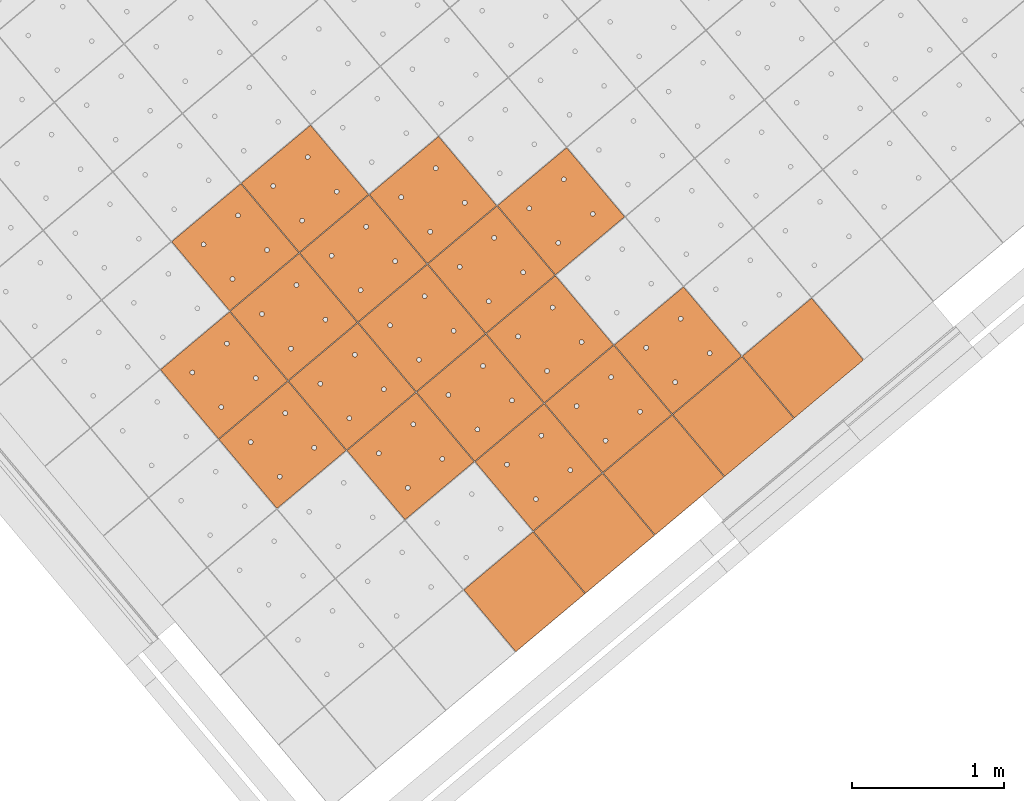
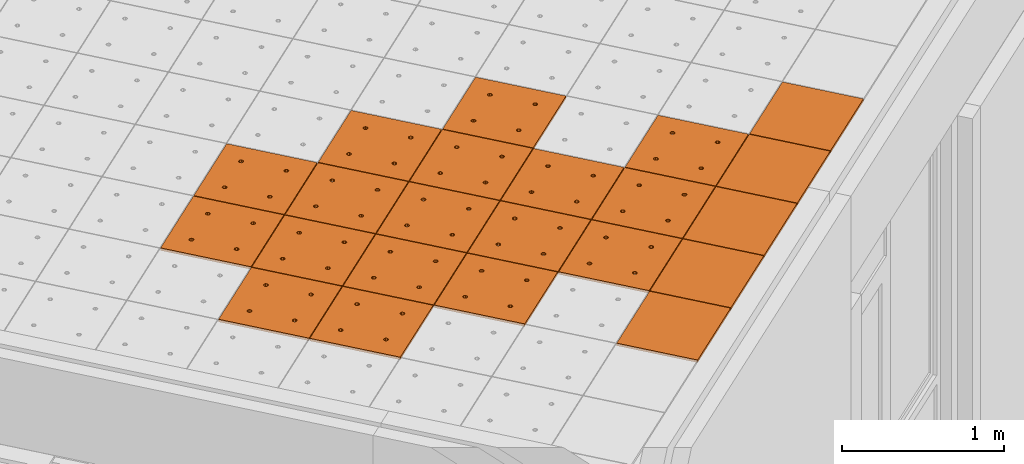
# One storey, part 126 of 338: 22 proxies, 1 element without a shape of its own.
"""IFC2X3 building model written with IfcOpenShell, lengths in millimetres."""

from ifc_helpers import new_model, entity, si_unit, converted_unit, derived_unit, money_unit, direction, frame, origin_with_axes, place, context, subcontext, project, spatial, faceted_brep, source, transform, mapped, material, type_object, type_shapes, element, aggregate, save


model = new_model("IFC2X3")

# Units and contexts
model_context = context("Model", 3, precision=0.01, world=origin_with_axes(), true_north=direction((0.0, 1.0)))
plan_context = context("Plan", 3, precision=0.01, world=origin_with_axes(), true_north=direction((0.0, 1.0)))
body_context = subcontext(model_context, "Body", "Model", "MODEL_VIEW")
ifc_project = project(units=[si_unit("LENGTHUNIT", "METRE", prefix="MILLI"), si_unit("AREAUNIT", "SQUARE_METRE"), si_unit("VOLUMEUNIT", "CUBIC_METRE"), converted_unit("PLANEANGLEUNIT", "DEGREE", entity("IfcPlaneAngleMeasure", 0.0174532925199), si_unit("PLANEANGLEUNIT", "RADIAN"), dimensions=[0, 0, 0, 0, 0, 0, 0]), money_unit("EUR"), converted_unit("TIMEUNIT", "Year", entity("IfcTimeMeasure", 31556926.0), si_unit("TIMEUNIT", "SECOND"), dimensions=[0, 0, 1, 0, 0, 0, 0]), si_unit("MASSUNIT", "GRAM", prefix="KILO"), si_unit("THERMODYNAMICTEMPERATUREUNIT", "DEGREE_CELSIUS"), si_unit("LUMINOUSINTENSITYUNIT", "LUMEN"), si_unit("ENERGYUNIT", "JOULE", prefix="MEGA"), derived_unit("THERMALCONDUCTANCEUNIT", [(si_unit("POWERUNIT", "WATT"), 1), (si_unit("LENGTHUNIT", "METRE"), -1), (si_unit("THERMODYNAMICTEMPERATUREUNIT", "KELVIN"), -1)]), derived_unit("SPECIFICHEATCAPACITYUNIT", [(si_unit("ENERGYUNIT", "JOULE"), 1), (si_unit("MASSUNIT", "GRAM", prefix="KILO"), -1), (si_unit("THERMODYNAMICTEMPERATUREUNIT", "KELVIN"), -1)]), derived_unit("MASSDENSITYUNIT", [(si_unit("MASSUNIT", "GRAM", prefix="KILO"), 1), (si_unit("VOLUMEUNIT", "CUBIC_METRE"), -1)])], contexts=[model_context, plan_context])

# Site, building, storey
site_placement = place(None, origin_with_axes())
site = spatial("IfcSite", under=ifc_project, at=site_placement, Name="Fortuinstraat Woensdrecht", CompositionType="ELEMENT")
building_placement = place(site_placement, origin_with_axes())
building = spatial("IfcBuilding", under=site, at=building_placement, Name="IKC Fortuna", CompositionType="ELEMENT")
storey_placement = place(building_placement, origin_with_axes())
storey = spatial("IfcBuildingStorey", under=building, at=storey_placement, Name="00 begane grond", CompositionType="ELEMENT", Elevation=0.0)

# Covering, proxies
covering_type = type_object("IfcCoveringType", Name="Curtain Wall Type", PredefinedType="CEILING")
covering_placement = place(storey_placement, frame((15150.6418133, -6622.13986243, 4660.0), z_axis=(0.0, 0.0, 1.0), x_axis=(1.0, 0.0, 0.0)))
covering = element("IfcCovering", 1, at=covering_placement, inside=storey, type_object=covering_type, Name="45_Plafondafwerking_P01", PredefinedType="CEILING")
ifc_material = material(Name="Gipsplaat")
building_element_proxy_type_1 = type_object("IfcBuildingElementProxyType", Name="Main Panel 600 x 600 x 20", PredefinedType="NOTDEFINED")
shared_shape_1 = source(origin_with_axes(), body_context, "Body", "Brep", [
    faceted_brep([(2.49999999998, 2.49999999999, -10.0), (300.0, 2.49999999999, -10.0), (300.0, 2.49999999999, 10.0), (2.49999999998, 2.49999999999, 10.0), (2.49999999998, 300.0, -10.0), (2.49999999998, 597.5, -10.0), (300.0, 597.5, -10.0), (597.5, 597.5, -10.0), (597.5, 300.0, -10.0), (597.5, 2.49999999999, -10.0), (166.25, 450.06232995, -10.0), (165.79423259, 452.64711538, -10.0), (164.896546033, 455.11348892, -10.0), (163.58421608, 457.38651108, -10.0), (161.897117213, 459.39711721, -10.0), (159.886511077, 461.08421608, -10.0), (157.613488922, 462.39654603, -10.0), (155.147115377, 463.29423259, -10.0), (152.562329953, 463.75, -10.0), (149.937670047, 463.75, -10.0), (147.352884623, 463.29423259, -10.0), (144.886511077, 462.39654603, -10.0), (142.613488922, 461.08421608, -10.0), (140.602882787, 459.39711721, -10.0), (138.91578392, 457.38651108, -10.0), (137.603453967, 455.11348892, -10.0), (136.705767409, 452.64711538, -10.0), (136.25, 450.06232995, -10.0), (136.25, 448.75, -10.0), (136.25, 447.43767005, -10.0), (136.705767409, 444.85288462, -10.0), (137.603453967, 442.38651108, -10.0), (138.91578392, 440.11348892, -10.0), (140.602882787, 438.10288279, -10.0), (142.613488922, 436.41578392, -10.0), (144.886511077, 435.10345397, -10.0), (147.352884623, 434.20576741, -10.0), (149.937670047, 433.75, -10.0), (152.562329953, 433.75, -10.0), (155.147115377, 434.20576741, -10.0), (157.613488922, 435.10345397, -10.0), (159.886511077, 436.41578392, -10.0), (161.897117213, 438.10288279, -10.0), (163.58421608, 440.11348892, -10.0), (164.896546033, 442.38651108, -10.0), (165.79423259, 444.85288462, -10.0), (166.25, 447.43767005, -10.0), (463.75, 450.06232995, -10.0), (463.29423259, 452.64711538, -10.0), (462.396546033, 455.11348892, -10.0), (461.08421608, 457.38651108, -10.0), (459.397117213, 459.39711721, -10.0), (457.386511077, 461.08421608, -10.0), (455.113488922, 462.39654603, -10.0), (452.647115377, 463.29423259, -10.0), (450.062329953, 463.75, -10.0), (447.437670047, 463.75, -10.0), (444.852884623, 463.29423259, -10.0), (442.386511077, 462.39654603, -10.0), (440.113488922, 461.08421608, -10.0), (438.102882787, 459.39711721, -10.0), (436.41578392, 457.38651108, -10.0), (435.103453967, 455.11348892, -10.0), (434.205767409, 452.64711538, -10.0), (433.75, 450.06232995, -10.0), (433.75, 448.75, -10.0), (433.75, 447.43767005, -10.0), (434.205767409, 444.85288462, -10.0), (435.103453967, 442.38651108, -10.0), (436.41578392, 440.11348892, -10.0), (438.102882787, 438.10288279, -10.0), (440.113488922, 436.41578392, -10.0), (442.386511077, 435.10345397, -10.0), (444.852884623, 434.20576741, -10.0), (447.437670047, 433.75, -10.0), (450.062329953, 433.75, -10.0), (452.647115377, 434.20576741, -10.0), (455.113488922, 435.10345397, -10.0), (457.386511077, 436.41578392, -10.0), (459.397117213, 438.10288279, -10.0), (461.08421608, 440.11348892, -10.0), (462.396546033, 442.38651108, -10.0), (463.29423259, 444.85288462, -10.0), (463.75, 447.43767005, -10.0), (463.75, 152.56232995, -10.0), (463.29423259, 155.14711538, -10.0), (462.396546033, 157.61348892, -10.0), (461.08421608, 159.88651108, -10.0), (459.397117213, 161.89711721, -10.0), (457.386511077, 163.58421608, -10.0), (455.113488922, 164.89654603, -10.0), (452.647115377, 165.79423259, -10.0), (450.062329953, 166.25, -10.0), (447.437670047, 166.25, -10.0), (444.852884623, 165.79423259, -10.0), (442.386511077, 164.89654603, -10.0), (440.113488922, 163.58421608, -10.0), (438.102882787, 161.89711721, -10.0), (436.41578392, 159.88651108, -10.0), (435.103453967, 157.61348892, -10.0), (434.205767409, 155.14711538, -10.0), (433.75, 152.56232995, -10.0), (433.75, 151.25, -10.0), (433.75, 149.93767005, -10.0), (434.205767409, 147.35288462, -10.0), (435.103453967, 144.88651108, -10.0), (436.41578392, 142.61348892, -10.0), (438.102882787, 140.60288279, -10.0), (440.113488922, 138.91578392, -10.0), (442.386511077, 137.60345397, -10.0), (444.852884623, 136.70576741, -10.0), (447.437670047, 136.25, -10.0), (450.062329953, 136.25, -10.0), (452.647115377, 136.70576741, -10.0), (455.113488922, 137.60345397, -10.0), (457.386511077, 138.91578392, -10.0), (459.397117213, 140.60288279, -10.0), (461.08421608, 142.61348892, -10.0), (462.396546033, 144.88651108, -10.0), (463.29423259, 147.35288462, -10.0), (463.75, 149.93767005, -10.0), (166.25, 152.56232995, -10.0), (165.79423259, 155.14711538, -10.0), (164.896546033, 157.61348892, -10.0), (163.58421608, 159.88651108, -10.0), (161.897117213, 161.89711721, -10.0), (159.886511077, 163.58421608, -10.0), (157.613488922, 164.89654603, -10.0), (155.147115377, 165.79423259, -10.0), (152.562329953, 166.25, -10.0), (149.937670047, 166.25, -10.0), (147.352884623, 165.79423259, -10.0), (144.886511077, 164.89654603, -10.0), (142.613488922, 163.58421608, -10.0), (140.602882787, 161.89711721, -10.0), (138.91578392, 159.88651108, -10.0), (137.603453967, 157.61348892, -10.0), (136.705767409, 155.14711538, -10.0), (136.25, 152.56232995, -10.0), (136.25, 151.25, -10.0), (136.25, 149.93767005, -10.0), (136.705767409, 147.35288462, -10.0), (137.603453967, 144.88651108, -10.0), (138.91578392, 142.61348892, -10.0), (140.602882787, 140.60288279, -10.0), (142.613488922, 138.91578392, -10.0), (144.886511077, 137.60345397, -10.0), (147.352884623, 136.70576741, -10.0), (149.937670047, 136.25, -10.0), (152.562329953, 136.25, -10.0), (155.147115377, 136.70576741, -10.0), (157.613488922, 137.60345397, -10.0), (159.886511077, 138.91578392, -10.0), (161.897117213, 140.60288279, -10.0), (163.58421608, 142.61348892, -10.0), (164.896546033, 144.88651108, -10.0), (165.79423259, 147.35288462, -10.0), (166.25, 149.93767005, -10.0), (597.5, 2.49999999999, 10.0), (597.5, 300.0, 10.0), (597.5, 597.5, 10.0), (300.0, 597.5, 10.0), (2.49999999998, 597.5, 10.0), (2.49999999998, 300.0, 10.0), (166.25, 450.06232995, 10.0), (166.25, 447.43767005, 10.0), (165.79423259, 444.85288462, 10.0), (164.896546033, 442.38651108, 10.0), (163.58421608, 440.11348892, 10.0), (161.897117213, 438.10288279, 10.0), (159.886511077, 436.41578392, 10.0), (157.613488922, 435.10345397, 10.0), (155.147115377, 434.20576741, 10.0), (152.562329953, 433.75, 10.0), (149.937670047, 433.75, 10.0), (147.352884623, 434.20576741, 10.0), (144.886511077, 435.10345397, 10.0), (142.613488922, 436.41578392, 10.0), (140.602882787, 438.10288279, 10.0), (138.91578392, 440.11348892, 10.0), (137.603453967, 442.38651108, 10.0), (136.705767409, 444.85288462, 10.0), (136.25, 447.43767005, 10.0), (136.25, 448.75, 10.0), (136.25, 450.06232995, 10.0), (136.705767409, 452.64711538, 10.0), (137.603453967, 455.11348892, 10.0), (138.91578392, 457.38651108, 10.0), (140.602882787, 459.39711721, 10.0), (142.613488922, 461.08421608, 10.0), (144.886511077, 462.39654603, 10.0), (147.352884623, 463.29423259, 10.0), (149.937670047, 463.75, 10.0), (152.562329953, 463.75, 10.0), (155.147115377, 463.29423259, 10.0), (157.613488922, 462.39654603, 10.0), (159.886511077, 461.08421608, 10.0), (161.897117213, 459.39711721, 10.0), (163.58421608, 457.38651108, 10.0), (164.896546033, 455.11348892, 10.0), (165.79423259, 452.64711538, 10.0), (463.75, 450.06232995, 10.0), (463.75, 447.43767005, 10.0), (463.29423259, 444.85288462, 10.0), (462.396546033, 442.38651108, 10.0), (461.08421608, 440.11348892, 10.0), (459.397117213, 438.10288279, 10.0), (457.386511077, 436.41578392, 10.0), (455.113488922, 435.10345397, 10.0), (452.647115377, 434.20576741, 10.0), (450.062329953, 433.75, 10.0), (447.437670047, 433.75, 10.0), (444.852884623, 434.20576741, 10.0), (442.386511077, 435.10345397, 10.0), (440.113488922, 436.41578392, 10.0), (438.102882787, 438.10288279, 10.0), (436.41578392, 440.11348892, 10.0), (435.103453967, 442.38651108, 10.0), (434.205767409, 444.85288462, 10.0), (433.75, 447.43767005, 10.0), (433.75, 448.75, 10.0), (433.75, 450.06232995, 10.0), (434.205767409, 452.64711538, 10.0), (435.103453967, 455.11348892, 10.0), (436.41578392, 457.38651108, 10.0), (438.102882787, 459.39711721, 10.0), (440.113488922, 461.08421608, 10.0), (442.386511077, 462.39654603, 10.0), (444.852884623, 463.29423259, 10.0), (447.437670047, 463.75, 10.0), (450.062329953, 463.75, 10.0), (452.647115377, 463.29423259, 10.0), (455.113488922, 462.39654603, 10.0), (457.386511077, 461.08421608, 10.0), (459.397117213, 459.39711721, 10.0), (461.08421608, 457.38651108, 10.0), (462.396546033, 455.11348892, 10.0), (463.29423259, 452.64711538, 10.0), (463.75, 152.56232995, 10.0), (463.75, 149.93767005, 10.0), (463.29423259, 147.35288462, 10.0), (462.396546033, 144.88651108, 10.0), (461.08421608, 142.61348892, 10.0), (459.397117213, 140.60288279, 10.0), (457.386511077, 138.91578392, 10.0), (455.113488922, 137.60345397, 10.0), (452.647115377, 136.70576741, 10.0), (450.062329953, 136.25, 10.0), (447.437670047, 136.25, 10.0), (444.852884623, 136.70576741, 10.0), (442.386511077, 137.60345397, 10.0), (440.113488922, 138.91578392, 10.0), (438.102882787, 140.60288279, 10.0), (436.41578392, 142.61348892, 10.0), (435.103453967, 144.88651108, 10.0), (434.205767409, 147.35288462, 10.0), (433.75, 149.93767005, 10.0), (433.75, 151.25, 10.0), (433.75, 152.56232995, 10.0), (434.205767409, 155.14711538, 10.0), (435.103453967, 157.61348892, 10.0), (436.41578392, 159.88651108, 10.0), (438.102882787, 161.89711721, 10.0), (440.113488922, 163.58421608, 10.0), (442.386511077, 164.89654603, 10.0), (444.852884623, 165.79423259, 10.0), (447.437670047, 166.25, 10.0), (450.062329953, 166.25, 10.0), (452.647115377, 165.79423259, 10.0), (455.113488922, 164.89654603, 10.0), (457.386511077, 163.58421608, 10.0), (459.397117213, 161.89711721, 10.0), (461.08421608, 159.88651108, 10.0), (462.396546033, 157.61348892, 10.0), (463.29423259, 155.14711538, 10.0), (166.25, 152.56232995, 10.0), (166.25, 149.93767005, 10.0), (165.79423259, 147.35288462, 10.0), (164.896546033, 144.88651108, 10.0), (163.58421608, 142.61348892, 10.0), (161.897117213, 140.60288279, 10.0), (159.886511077, 138.91578392, 10.0), (157.613488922, 137.60345397, 10.0), (155.147115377, 136.70576741, 10.0), (152.562329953, 136.25, 10.0), (149.937670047, 136.25, 10.0), (147.352884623, 136.70576741, 10.0), (144.886511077, 137.60345397, 10.0), (142.613488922, 138.91578392, 10.0), (140.602882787, 140.60288279, 10.0), (138.91578392, 142.61348892, 10.0), (137.603453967, 144.88651108, 10.0), (136.705767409, 147.35288462, 10.0), (136.25, 149.93767005, 10.0), (136.25, 151.25, 10.0), (136.25, 152.56232995, 10.0), (136.705767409, 155.14711538, 10.0), (137.603453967, 157.61348892, 10.0), (138.91578392, 159.88651108, 10.0), (140.602882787, 161.89711721, 10.0), (142.613488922, 163.58421608, 10.0), (144.886511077, 164.89654603, 10.0), (147.352884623, 165.79423259, 10.0), (149.937670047, 166.25, 10.0), (152.562329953, 166.25, 10.0), (155.147115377, 165.79423259, 10.0), (157.613488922, 164.89654603, 10.0), (159.886511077, 163.58421608, 10.0), (161.897117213, 161.89711721, 10.0), (163.58421608, 159.88651108, 10.0), (164.896546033, 157.61348892, 10.0), (165.79423259, 155.14711538, 10.0)], [[[0, 1, 2, 3]], [[0, 4, 5, 6, 7, 8, 9, 1], [10, 11, 12, 13, 14, 15, 16, 17, 18, 19, 20, 21, 22, 23, 24, 25, 26, 27, 28, 29, 30, 31, 32, 33, 34, 35, 36, 37, 38, 39, 40, 41, 42, 43, 44, 45, 46], [47, 48, 49, 50, 51, 52, 53, 54, 55, 56, 57, 58, 59, 60, 61, 62, 63, 64, 65, 66, 67, 68, 69, 70, 71, 72, 73, 74, 75, 76, 77, 78, 79, 80, 81, 82, 83], [84, 85, 86, 87, 88, 89, 90, 91, 92, 93, 94, 95, 96, 97, 98, 99, 100, 101, 102, 103, 104, 105, 106, 107, 108, 109, 110, 111, 112, 113, 114, 115, 116, 117, 118, 119, 120], [121, 122, 123, 124, 125, 126, 127, 128, 129, 130, 131, 132, 133, 134, 135, 136, 137, 138, 139, 140, 141, 142, 143, 144, 145, 146, 147, 148, 149, 150, 151, 152, 153, 154, 155, 156, 157]], [[1, 9, 158, 2]], [[3, 2, 158, 159, 160, 161, 162, 163], [164, 165, 166, 167, 168, 169, 170, 171, 172, 173, 174, 175, 176, 177, 178, 179, 180, 181, 182, 183, 184, 185, 186, 187, 188, 189, 190, 191, 192, 193, 194, 195, 196, 197, 198, 199, 200], [201, 202, 203, 204, 205, 206, 207, 208, 209, 210, 211, 212, 213, 214, 215, 216, 217, 218, 219, 220, 221, 222, 223, 224, 225, 226, 227, 228, 229, 230, 231, 232, 233, 234, 235, 236, 237], [238, 239, 240, 241, 242, 243, 244, 245, 246, 247, 248, 249, 250, 251, 252, 253, 254, 255, 256, 257, 258, 259, 260, 261, 262, 263, 264, 265, 266, 267, 268, 269, 270, 271, 272, 273, 274], [275, 276, 277, 278, 279, 280, 281, 282, 283, 284, 285, 286, 287, 288, 289, 290, 291, 292, 293, 294, 295, 296, 297, 298, 299, 300, 301, 302, 303, 304, 305, 306, 307, 308, 309, 310, 311]], [[4, 0, 3, 163]], [[5, 4, 163, 162]], [[6, 5, 162, 161]], [[7, 6, 161, 160]], [[8, 7, 160, 159]], [[9, 8, 159, 158]], [[11, 10, 164, 200]], [[12, 11, 200, 199]], [[13, 12, 199, 198]], [[14, 13, 198, 197]], [[15, 14, 197, 196]], [[16, 15, 196, 195]], [[17, 16, 195, 194]], [[18, 17, 194, 193]], [[19, 18, 193, 192]], [[20, 19, 192, 191]], [[21, 20, 191, 190]], [[22, 21, 190, 189]], [[23, 22, 189, 188]], [[24, 23, 188, 187]], [[25, 24, 187, 186]], [[26, 25, 186, 185]], [[27, 26, 185, 184]], [[28, 27, 184, 183]], [[29, 28, 183, 182]], [[30, 29, 182, 181]], [[31, 30, 181, 180]], [[32, 31, 180, 179]], [[33, 32, 179, 178]], [[34, 33, 178, 177]], [[35, 34, 177, 176]], [[36, 35, 176, 175]], [[37, 36, 175, 174]], [[38, 37, 174, 173]], [[39, 38, 173, 172]], [[40, 39, 172, 171]], [[41, 40, 171, 170]], [[42, 41, 170, 169]], [[43, 42, 169, 168]], [[44, 43, 168, 167]], [[45, 44, 167, 166]], [[46, 45, 166, 165]], [[10, 46, 165, 164]], [[48, 47, 201, 237]], [[49, 48, 237, 236]], [[50, 49, 236, 235]], [[51, 50, 235, 234]], [[52, 51, 234, 233]], [[53, 52, 233, 232]], [[54, 53, 232, 231]], [[55, 54, 231, 230]], [[56, 55, 230, 229]], [[57, 56, 229, 228]], [[58, 57, 228, 227]], [[59, 58, 227, 226]], [[60, 59, 226, 225]], [[61, 60, 225, 224]], [[62, 61, 224, 223]], [[63, 62, 223, 222]], [[64, 63, 222, 221]], [[65, 64, 221, 220]], [[66, 65, 220, 219]], [[67, 66, 219, 218]], [[68, 67, 218, 217]], [[69, 68, 217, 216]], [[70, 69, 216, 215]], [[71, 70, 215, 214]], [[72, 71, 214, 213]], [[73, 72, 213, 212]], [[74, 73, 212, 211]], [[75, 74, 211, 210]], [[76, 75, 210, 209]], [[77, 76, 209, 208]], [[78, 77, 208, 207]], [[79, 78, 207, 206]], [[80, 79, 206, 205]], [[81, 80, 205, 204]], [[82, 81, 204, 203]], [[83, 82, 203, 202]], [[47, 83, 202, 201]], [[85, 84, 238, 274]], [[86, 85, 274, 273]], [[87, 86, 273, 272]], [[88, 87, 272, 271]], [[89, 88, 271, 270]], [[90, 89, 270, 269]], [[91, 90, 269, 268]], [[92, 91, 268, 267]], [[93, 92, 267, 266]], [[94, 93, 266, 265]], [[95, 94, 265, 264]], [[96, 95, 264, 263]], [[97, 96, 263, 262]], [[98, 97, 262, 261]], [[99, 98, 261, 260]], [[100, 99, 260, 259]], [[101, 100, 259, 258]], [[102, 101, 258, 257]], [[103, 102, 257, 256]], [[104, 103, 256, 255]], [[105, 104, 255, 254]], [[106, 105, 254, 253]], [[107, 106, 253, 252]], [[108, 107, 252, 251]], [[109, 108, 251, 250]], [[110, 109, 250, 249]], [[111, 110, 249, 248]], [[112, 111, 248, 247]], [[113, 112, 247, 246]], [[114, 113, 246, 245]], [[115, 114, 245, 244]], [[116, 115, 244, 243]], [[117, 116, 243, 242]], [[118, 117, 242, 241]], [[119, 118, 241, 240]], [[120, 119, 240, 239]], [[84, 120, 239, 238]], [[122, 121, 275, 311]], [[123, 122, 311, 310]], [[124, 123, 310, 309]], [[125, 124, 309, 308]], [[126, 125, 308, 307]], [[127, 126, 307, 306]], [[128, 127, 306, 305]], [[129, 128, 305, 304]], [[130, 129, 304, 303]], [[131, 130, 303, 302]], [[132, 131, 302, 301]], [[133, 132, 301, 300]], [[134, 133, 300, 299]], [[135, 134, 299, 298]], [[136, 135, 298, 297]], [[137, 136, 297, 296]], [[138, 137, 296, 295]], [[139, 138, 295, 294]], [[140, 139, 294, 293]], [[141, 140, 293, 292]], [[142, 141, 292, 291]], [[143, 142, 291, 290]], [[144, 143, 290, 289]], [[145, 144, 289, 288]], [[146, 145, 288, 287]], [[147, 146, 287, 286]], [[148, 147, 286, 285]], [[149, 148, 285, 284]], [[150, 149, 284, 283]], [[151, 150, 283, 282]], [[152, 151, 282, 281]], [[153, 152, 281, 280]], [[154, 153, 280, 279]], [[155, 154, 279, 278]], [[156, 155, 278, 277]], [[157, 156, 277, 276]], [[121, 157, 276, 275]]]),
])
type_shapes(building_element_proxy_type_1, [shared_shape_1])
proxy_1_placement = place(covering_placement, frame((-550.980400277, -7596.37891805, 1.7763568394e-10), z_axis=(0.0, 0.0, 1.0), x_axis=(1.0, 0.0, 0.0)))
proxy_1 = element("IfcBuildingElementProxy", 2, at=proxy_1_placement, type_object=building_element_proxy_type_1, material=ifc_material, Name="__600x601 Rockfon Krios", context=body_context, shape_type="MappedRepresentation", body=[
    mapped(shared_shape_1, transform((36.9769427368, 422.649625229, 0.0), x_axis=(-0.766044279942, -0.642787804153, 0.0), y_axis=(0.642787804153, -0.766044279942, 0.0), z_axis=(0.0, 0.0, 1.0))),
])
proxy_2_placement = place(covering_placement, frame((-936.653082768, -7136.75235008, 1.7763568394e-10), z_axis=(0.0, 0.0, 1.0), x_axis=(1.0, 0.0, 0.0)))
proxy_2 = element("IfcBuildingElementProxy", 3, at=proxy_2_placement, type_object=building_element_proxy_type_1, material=ifc_material, Name="__600x603 Rockfon Krios", context=body_context, shape_type="MappedRepresentation", body=[
    mapped(shared_shape_1, transform((36.9769427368, 422.649625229, 0.0), x_axis=(-0.766044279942, -0.642787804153, 0.0), y_axis=(0.642787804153, -0.766044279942, 0.0), z_axis=(0.0, 0.0, 1.0))),
])
proxy_3_placement = place(covering_placement, frame((-1322.32576526, -6677.12578212, 1.7763568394e-10), z_axis=(0.0, 0.0, 1.0), x_axis=(1.0, 0.0, 0.0)))
proxy_3 = element("IfcBuildingElementProxy", 4, at=proxy_3_placement, type_object=building_element_proxy_type_1, material=ifc_material, Name="__600x614 Rockfon Krios", context=body_context, shape_type="MappedRepresentation", body=[
    mapped(shared_shape_1, transform((36.9769427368, 422.649625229, 0.0), x_axis=(-0.766044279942, -0.642787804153, 0.0), y_axis=(0.642787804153, -0.766044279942, 0.0), z_axis=(0.0, 0.0, 1.0))),
])
proxy_4_placement = place(covering_placement, frame((-1396.27965073, -7522.42503257, 1.97175609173e-10), z_axis=(0.0, 0.0, 1.0), x_axis=(1.0, 0.0, 0.0)))
proxy_4 = element("IfcBuildingElementProxy", 5, at=proxy_4_placement, type_object=building_element_proxy_type_1, material=ifc_material, Name="__600x633 Rockfon Krios", context=body_context, shape_type="MappedRepresentation", body=[
    mapped(shared_shape_1, transform((36.9769427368, 422.649625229, 0.0), x_axis=(-0.766044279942, -0.642787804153, 0.0), y_axis=(0.642787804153, -0.766044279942, 0.0), z_axis=(0.0, 0.0, 1.0))),
])
proxy_5_placement = place(covering_placement, frame((-1707.99844775, -6217.49921415, 1.7763568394e-10), z_axis=(0.0, 0.0, 1.0), x_axis=(1.0, 0.0, 0.0)))
proxy_5 = element("IfcBuildingElementProxy", 6, at=proxy_5_placement, type_object=building_element_proxy_type_1, material=ifc_material, Name="__600x634 Rockfon Krios", context=body_context, shape_type="MappedRepresentation", body=[
    mapped(shared_shape_1, transform((36.9769427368, 422.649625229, 0.0), x_axis=(-0.766044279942, -0.642787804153, 0.0), y_axis=(0.642787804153, -0.766044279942, 0.0), z_axis=(0.0, 0.0, 1.0))),
])
proxy_6_placement = place(covering_placement, frame((294.318850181, -7670.33280352, 1.58095758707e-10), z_axis=(0.0, 0.0, 1.0), x_axis=(1.0, 0.0, 0.0)))
proxy_6 = element("IfcBuildingElementProxy", 7, at=proxy_6_placement, type_object=building_element_proxy_type_1, material=ifc_material, Name="__600x665 Rockfon Krios", context=body_context, shape_type="MappedRepresentation", body=[
    mapped(shared_shape_1, transform((36.9769427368, 422.649625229, 0.0), x_axis=(-0.766044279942, -0.642787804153, 0.0), y_axis=(0.642787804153, -0.766044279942, 0.0), z_axis=(0.0, 0.0, 1.0))),
])
proxy_7_placement = place(covering_placement, frame((-91.3538323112, -7210.70623556, 1.58095758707e-10), z_axis=(0.0, 0.0, 1.0), x_axis=(1.0, 0.0, 0.0)))
proxy_7 = element("IfcBuildingElementProxy", 8, at=proxy_7_placement, type_object=building_element_proxy_type_1, material=ifc_material, Name="__600x667 Rockfon Krios", context=body_context, shape_type="MappedRepresentation", body=[
    mapped(shared_shape_1, transform((36.9769427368, 422.649625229, 0.0), x_axis=(-0.766044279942, -0.642787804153, 0.0), y_axis=(0.642787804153, -0.766044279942, 0.0), z_axis=(0.0, 0.0, 1.0))),
])
proxy_8_placement = place(covering_placement, frame((-477.026514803, -6751.07966759, 1.58095758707e-10), z_axis=(0.0, 0.0, 1.0), x_axis=(1.0, 0.0, 0.0)))
proxy_8 = element("IfcBuildingElementProxy", 9, at=proxy_8_placement, type_object=building_element_proxy_type_1, material=ifc_material, Name="__600x668 Rockfon Krios", context=body_context, shape_type="MappedRepresentation", body=[
    mapped(shared_shape_1, transform((36.9769427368, 422.649625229, 0.0), x_axis=(-0.766044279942, -0.642787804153, 0.0), y_axis=(0.642787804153, -0.766044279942, 0.0), z_axis=(0.0, 0.0, 1.0))),
])
proxy_9_placement = place(covering_placement, frame((-862.699197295, -6291.45309963, 1.58095758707e-10), z_axis=(0.0, 0.0, 1.0), x_axis=(1.0, 0.0, 0.0)))
proxy_9 = element("IfcBuildingElementProxy", 10, at=proxy_9_placement, type_object=building_element_proxy_type_1, material=ifc_material, Name="__600x669 Rockfon Krios", context=body_context, shape_type="MappedRepresentation", body=[
    mapped(shared_shape_1, transform((36.9769427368, 422.649625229, 0.0), x_axis=(-0.766044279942, -0.642787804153, 0.0), y_axis=(0.642787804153, -0.766044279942, 0.0), z_axis=(0.0, 0.0, 1.0))),
])
proxy_10_placement = place(covering_placement, frame((-1781.95233323, -7062.79846461, 1.97175609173e-10), z_axis=(0.0, 0.0, 1.0), x_axis=(1.0, 0.0, 0.0)))
proxy_10 = element("IfcBuildingElementProxy", 11, at=proxy_10_placement, type_object=building_element_proxy_type_1, material=ifc_material, Name="__600x683 Rockfon Krios", context=body_context, shape_type="MappedRepresentation", body=[
    mapped(shared_shape_1, transform((36.9769427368, 422.649625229, 0.0), x_axis=(-0.766044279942, -0.642787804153, 0.0), y_axis=(0.642787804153, -0.766044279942, 0.0), z_axis=(0.0, 0.0, 1.0))),
])
proxy_11_placement = place(covering_placement, frame((-1248.37187979, -5831.82653166, 1.58095758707e-10), z_axis=(0.0, 0.0, 1.0), x_axis=(1.0, 0.0, 0.0)))
proxy_11 = element("IfcBuildingElementProxy", 12, at=proxy_11_placement, type_object=building_element_proxy_type_1, material=ifc_material, Name="__600x699 Rockfon Krios", context=body_context, shape_type="MappedRepresentation", body=[
    mapped(shared_shape_1, transform((36.9769427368, 422.649625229, 0.0), x_axis=(-0.766044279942, -0.642787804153, 0.0), y_axis=(0.642787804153, -0.766044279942, 0.0), z_axis=(0.0, 0.0, 1.0))),
])
proxy_12_placement = place(covering_placement, frame((442.226621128, -5979.73430261, 1.1901590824e-10), z_axis=(0.0, 0.0, 1.0), x_axis=(1.0, 0.0, 0.0)))
proxy_12 = element("IfcBuildingElementProxy", 13, at=proxy_12_placement, type_object=building_element_proxy_type_1, material=ifc_material, Name="__600x740 Rockfon Krios", context=body_context, shape_type="MappedRepresentation", body=[
    mapped(shared_shape_1, transform((36.9769427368, 422.649625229, 0.0), x_axis=(-0.766044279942, -0.642787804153, 0.0), y_axis=(0.642787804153, -0.766044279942, 0.0), z_axis=(0.0, 0.0, 1.0))),
])
proxy_13_placement = place(covering_placement, frame((1213.57198611, -6898.98743854, 1.1901590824e-10), z_axis=(0.0, 0.0, 1.0), x_axis=(1.0, 0.0, 0.0)))
proxy_13 = element("IfcBuildingElementProxy", 14, at=proxy_13_placement, type_object=building_element_proxy_type_1, material=ifc_material, Name="__600x742 Rockfon Krios", context=body_context, shape_type="MappedRepresentation", body=[
    mapped(shared_shape_1, transform((36.9769427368, 422.649625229, 0.0), x_axis=(-0.766044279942, -0.642787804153, 0.0), y_axis=(0.642787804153, -0.766044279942, 0.0), z_axis=(0.0, 0.0, 1.0))),
])
proxy_14_placement = place(covering_placement, frame((-403.072629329, -5905.78041713, 1.38555833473e-10), z_axis=(0.0, 0.0, 1.0), x_axis=(1.0, 0.0, 0.0)))
proxy_14 = element("IfcBuildingElementProxy", 15, at=proxy_14_placement, type_object=building_element_proxy_type_1, material=ifc_material, Name="__600x748 Rockfon Krios", context=body_context, shape_type="MappedRepresentation", body=[
    mapped(shared_shape_1, transform((36.9769427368, 422.649625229, 0.0), x_axis=(-0.766044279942, -0.642787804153, 0.0), y_axis=(0.642787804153, -0.766044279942, 0.0), z_axis=(0.0, 0.0, 1.0))),
])
proxy_15_placement = place(covering_placement, frame((-17.3999468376, -6365.4069851, 1.38555833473e-10), z_axis=(0.0, 0.0, 1.0), x_axis=(1.0, 0.0, 0.0)))
proxy_15 = element("IfcBuildingElementProxy", 16, at=proxy_15_placement, type_object=building_element_proxy_type_1, material=ifc_material, Name="__600x749 Rockfon Krios", context=body_context, shape_type="MappedRepresentation", body=[
    mapped(shared_shape_1, transform((36.9769427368, 422.649625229, 0.0), x_axis=(-0.766044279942, -0.642787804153, 0.0), y_axis=(0.642787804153, -0.766044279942, 0.0), z_axis=(0.0, 0.0, 1.0))),
])
proxy_16_placement = place(covering_placement, frame((368.272735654, -6825.03355306, 1.38555833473e-10), z_axis=(0.0, 0.0, 1.0), x_axis=(1.0, 0.0, 0.0)))
proxy_16 = element("IfcBuildingElementProxy", 17, at=proxy_16_placement, type_object=building_element_proxy_type_1, material=ifc_material, Name="__600x750 Rockfon Krios", context=body_context, shape_type="MappedRepresentation", body=[
    mapped(shared_shape_1, transform((36.9769427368, 422.649625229, 0.0), x_axis=(-0.766044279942, -0.642787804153, 0.0), y_axis=(0.642787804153, -0.766044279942, 0.0), z_axis=(0.0, 0.0, 1.0))),
])
proxy_17_placement = place(covering_placement, frame((753.945418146, -7284.66012103, 1.38555833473e-10), z_axis=(0.0, 0.0, 1.0), x_axis=(1.0, 0.0, 0.0)))
proxy_17 = element("IfcBuildingElementProxy", 18, at=proxy_17_placement, type_object=building_element_proxy_type_1, material=ifc_material, Name="__600x751 Rockfon Krios", context=body_context, shape_type="MappedRepresentation", body=[
    mapped(shared_shape_1, transform((36.9769427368, 422.649625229, 0.0), x_axis=(-0.766044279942, -0.642787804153, 0.0), y_axis=(0.642787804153, -0.766044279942, 0.0), z_axis=(0.0, 0.0, 1.0))),
])
building_element_proxy_type_2 = type_object("IfcBuildingElementProxyType", Name="600 x 538 x 20", PredefinedType="NOTDEFINED")
shared_shape_2 = source(origin_with_axes(), body_context, "Body", "Brep", [
    faceted_brep([(2.49999356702, 2.5000047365, -10.0), (597.499998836, 2.49999810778, -10.0), (597.499998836, 2.49999810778, 10.0), (2.49999356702, 2.5000047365, 10.0), (2.49999991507, 535.002599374, -10.0), (597.500005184, 535.002592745, -10.0), (597.500005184, 535.002592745, 10.0), (2.49999991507, 535.002599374, 10.0)], [[[0, 1, 2, 3]], [[0, 4, 5, 1]], [[1, 5, 6, 2]], [[3, 2, 6, 7]], [[4, 0, 3, 7]], [[5, 4, 7, 6]]]),
])
type_shapes(building_element_proxy_type_2, [shared_shape_2])
proxy_18_placement = place(covering_placement, frame((1579.15838428, -7334.67611734, 1.1901590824e-10), z_axis=(0.0, 0.0, 1.0), x_axis=(1.0, 0.0, 0.0)))
proxy_18 = element("IfcBuildingElementProxy", 19, at=proxy_18_placement, type_object=building_element_proxy_type_2, material=ifc_material, Name="__600x606 Rockfon Krios", context=body_context, shape_type="MappedRepresentation", body=[
    mapped(shared_shape_2, transform((57.0632270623, 398.711736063, 0.0), x_axis=(-0.766044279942, -0.642787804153, 0.0), y_axis=(0.642787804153, -0.766044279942, 0.0), z_axis=(0.0, 0.0, 1.0))),
])
proxy_19_placement = place(covering_placement, frame((659.905248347, -8106.02148232, 1.58095758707e-10), z_axis=(0.0, 0.0, 1.0), x_axis=(1.0, 0.0, 0.0)))
proxy_19 = element("IfcBuildingElementProxy", 20, at=proxy_19_placement, type_object=building_element_proxy_type_2, material=ifc_material, Name="__600x618 Rockfon Krios", context=body_context, shape_type="MappedRepresentation", body=[
    mapped(shared_shape_2, transform((57.0632270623, 398.711736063, 0.0), x_axis=(-0.766044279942, -0.642787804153, 0.0), y_axis=(0.642787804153, -0.766044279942, 0.0), z_axis=(0.0, 0.0, 1.0))),
])
proxy_20_placement = place(covering_placement, frame((2038.78495224, -6949.00343485, 0.0), z_axis=(0.0, 0.0, 1.0), x_axis=(1.0, 0.0, 0.0)))
proxy_20 = element("IfcBuildingElementProxy", 21, at=proxy_20_placement, type_object=building_element_proxy_type_2, material=ifc_material, Name="__600x716 Rockfon Krios", context=body_context, shape_type="MappedRepresentation", body=[
    mapped(shared_shape_2, transform((57.0632270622, 398.711736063, 0.0), x_axis=(-0.766044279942, -0.642787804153, 0.0), y_axis=(0.642787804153, -0.766044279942, 0.0), z_axis=(0.0, 0.0, 1.0))),
])
proxy_21_placement = place(covering_placement, frame((1119.53181631, -7720.34879983, 1.38555833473e-10), z_axis=(0.0, 0.0, 1.0), x_axis=(1.0, 0.0, 0.0)))
proxy_21 = element("IfcBuildingElementProxy", 22, at=proxy_21_placement, type_object=building_element_proxy_type_2, material=ifc_material, Name="__600x734 Rockfon Krios", context=body_context, shape_type="MappedRepresentation", body=[
    mapped(shared_shape_2, transform((57.0632270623, 398.711736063, 0.0), x_axis=(-0.766044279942, -0.642787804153, 0.0), y_axis=(0.642787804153, -0.766044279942, 0.0), z_axis=(0.0, 0.0, 1.0))),
])
proxy_22_placement = place(covering_placement, frame((200.278680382, -8491.69416481, 1.7763568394e-10), z_axis=(0.0, 0.0, 1.0), x_axis=(1.0, 0.0, 0.0)))
proxy_22 = element("IfcBuildingElementProxy", 23, at=proxy_22_placement, type_object=building_element_proxy_type_2, material=ifc_material, Name="__600x752 Rockfon Krios", context=body_context, shape_type="MappedRepresentation", body=[
    mapped(shared_shape_2, transform((57.0632270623, 398.711736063, 0.0), x_axis=(-0.766044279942, -0.642787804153, 0.0), y_axis=(0.642787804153, -0.766044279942, 0.0), z_axis=(0.0, 0.0, 1.0))),
])
aggregate(covering, [proxy_1, proxy_2, proxy_18, proxy_3, proxy_19, proxy_4, proxy_5, proxy_6, proxy_7, proxy_8, proxy_9, proxy_10, proxy_11, proxy_20, proxy_21, proxy_12, proxy_13, proxy_14, proxy_15, proxy_16, proxy_17, proxy_22])

save(model, "model.ifc")
